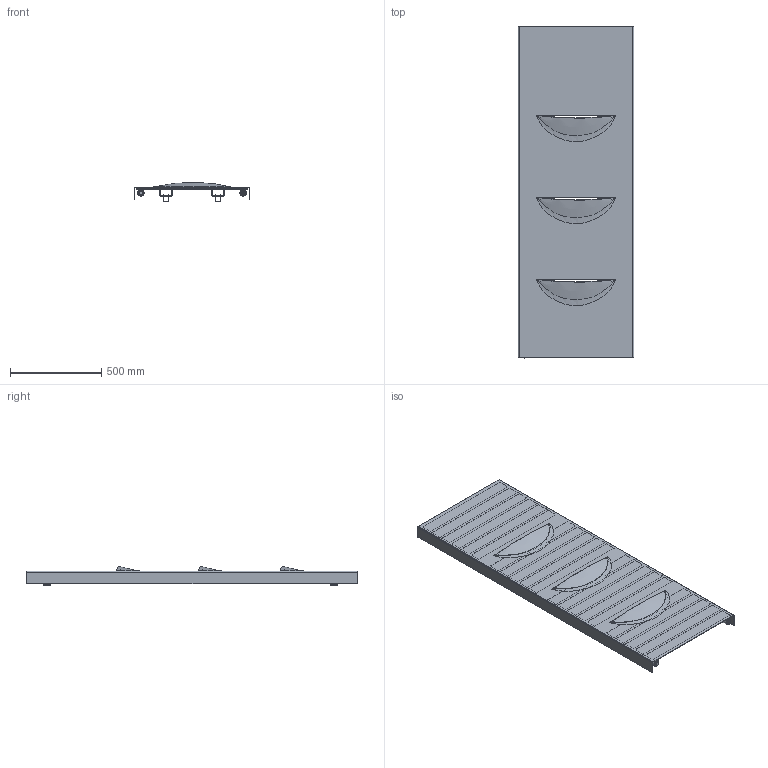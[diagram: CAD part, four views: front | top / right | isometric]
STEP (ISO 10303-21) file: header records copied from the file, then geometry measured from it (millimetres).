
FILE_DESCRIPTION (( 'STEP AP203' ), '1' );
FILE_NAME ('FCUT18620SV.STEP', '2026-03-03T16:01:43', ( '' ), ( '' ), 'SwSTEP 2.0', 'SolidWorks 2025', '' );
FILE_SCHEMA (( 'CONFIG_CONTROL_DESIGN' ));
Length unit declared in the file: millimetre
Products named in the file (9): LAMIERA FRONTALE CUT VERTICAL_1820X635; TRAVERSINO PIATTO 70 [Con configurazioni]_610; tappo_sx.prt; COLLETTORE INT 75 [Con configurazioni]_1810; tappo_sfiato.prt; SUPPORTO A SALDARE_A ESTESO; SUPPORTO; ZANCA-FISSAGGIO; FCUT18620SV
Assembly tree (33 placements, depth 3):
  FCUT18620SV
    TRAVERSINO PIATTO 70 [Con configurazioni]_610  x21
    COLLETTORE INT 75 [Con configurazioni]_1810  x2
    LAMIERA FRONTALE CUT VERTICAL_1820X635
    SUPPORTO A SALDARE_A ESTESO  x4
      ZANCA-FISSAGGIO
      SUPPORTO
    tappo_sx.prt  x2
    tappo_sfiato.prt
Bounding box: 635 x 1822 x 104.19 mm (x, y, z)
Volume: 7695682.8 mm3; surface area: 7467161.8 mm2
Topology: 32 solids, 38 shells, 2577 faces, 6977 edges, 4152 vertices
Faces by surface type: plane 1121, cylinder 740, cone 338, bspline 260, torus 118
Entity records: 35731 total; most frequent: CARTESIAN_POINT 23189, ORIENTED_EDGE 2674, DIRECTION 1703, EDGE_CURVE 1341, VERTEX_POINT 799, B_SPLINE_CURVE_WITH_KNOTS 661, AXIS2_PLACEMENT_3D 595, VECTOR 513
